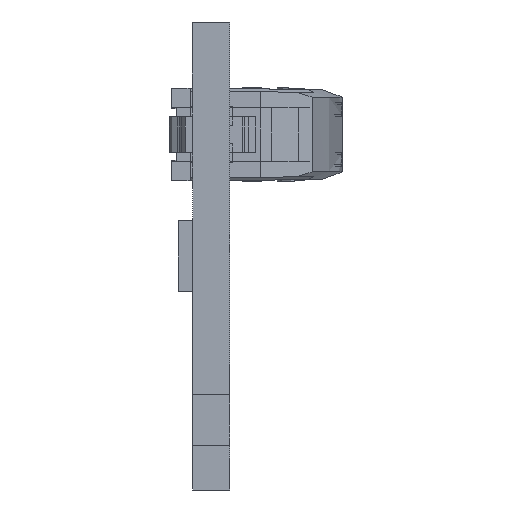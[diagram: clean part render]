
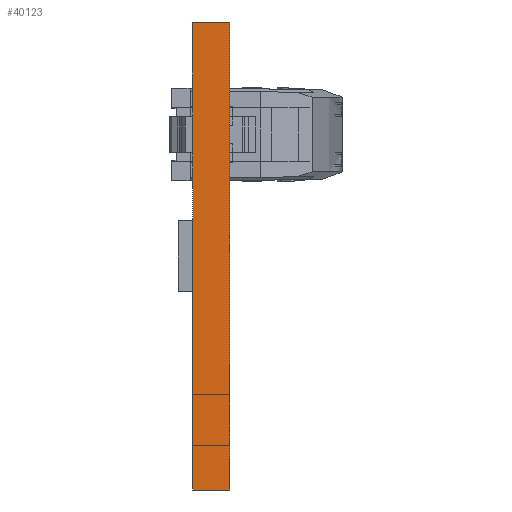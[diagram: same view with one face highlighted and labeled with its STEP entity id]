
A CAD part, left-side view. The second image highlights one B-rep face of the part: STEP entity #40123.
In plain terms, the highlighted planar face has unit normal (-1, 0, 0).
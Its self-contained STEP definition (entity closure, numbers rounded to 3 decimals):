
#26487 = VERTEX_POINT ( 'NONE', #105684 ) ;
#27895 = EDGE_CURVE ( 'NONE', #63775, #26487, #105121, .T. ) ;
#30603 = ORIENTED_EDGE ( 'NONE', *, *, #88205, .T. ) ;
#40123 = ADVANCED_FACE ( 'NONE', ( #87684 ), #98275, .F. ) ;
#42980 = DIRECTION ( 'NONE',  ( 0., 0., -1. ) ) ;
#44105 = VECTOR ( 'NONE', #42980, 1000. ) ;
#56904 = CARTESIAN_POINT ( 'NONE',  ( 0., -1.6, -10. ) ) ;
#63775 = VERTEX_POINT ( 'NONE', #56904 ) ;
#64150 = VECTOR ( 'NONE', #154693, 1000. ) ;
#66812 = VECTOR ( 'NONE', #76867, 1000. ) ;
#67431 = VECTOR ( 'NONE', #125252, 1000. ) ;
#71432 = LINE ( 'NONE', #112296, #67431 ) ;
#76867 = DIRECTION ( 'NONE',  ( 0., 1., 0. ) ) ;
#85117 = ORIENTED_EDGE ( 'NONE', *, *, #114198, .T. ) ;
#85281 = CARTESIAN_POINT ( 'NONE',  ( 0., -1.6, 0. ) ) ;
#87684 = FACE_OUTER_BOUND ( 'NONE', #163938, .T. ) ;
#88205 = EDGE_CURVE ( 'NONE', #142088, #26487, #142860, .T. ) ;
#95848 = CARTESIAN_POINT ( 'NONE',  ( 0., 0., 10. ) ) ;
#97709 = DIRECTION ( 'NONE',  ( 1., 0., 0. ) ) ;
#98275 = PLANE ( 'NONE',  #105172 ) ;
#98311 = VERTEX_POINT ( 'NONE', #141494 ) ;
#105121 = LINE ( 'NONE', #166866, #66812 ) ;
#105172 = AXIS2_PLACEMENT_3D ( 'NONE', #85281, #97709, #111254 ) ;
#105684 = CARTESIAN_POINT ( 'NONE',  ( 0., 0., -10. ) ) ;
#107558 = ORIENTED_EDGE ( 'NONE', *, *, #166658, .F. ) ;
#111254 = DIRECTION ( 'NONE',  ( 0., 0., -1. ) ) ;
#112296 = CARTESIAN_POINT ( 'NONE',  ( 0., -1.6, 0. ) ) ;
#114198 = EDGE_CURVE ( 'NONE', #98311, #142088, #136610, .T. ) ;
#114688 = ORIENTED_EDGE ( 'NONE', *, *, #27895, .F. ) ;
#120169 = CARTESIAN_POINT ( 'NONE',  ( 0., 0., 0. ) ) ;
#125252 = DIRECTION ( 'NONE',  ( 0., 0., -1. ) ) ;
#136610 = LINE ( 'NONE', #141813, #64150 ) ;
#141494 = CARTESIAN_POINT ( 'NONE',  ( 0., -1.6, 10. ) ) ;
#141813 = CARTESIAN_POINT ( 'NONE',  ( 0., -1.6, 10. ) ) ;
#142088 = VERTEX_POINT ( 'NONE', #95848 ) ;
#142860 = LINE ( 'NONE', #120169, #44105 ) ;
#154693 = DIRECTION ( 'NONE',  ( 0., 1., 0. ) ) ;
#163938 = EDGE_LOOP ( 'NONE', ( #30603, #114688, #107558, #85117 ) ) ;
#166658 = EDGE_CURVE ( 'NONE', #98311, #63775, #71432, .T. ) ;
#166866 = CARTESIAN_POINT ( 'NONE',  ( 0., -1.6, -10. ) ) ;
